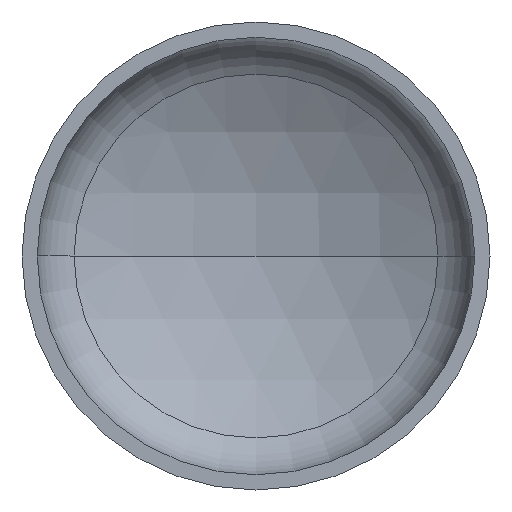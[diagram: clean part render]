
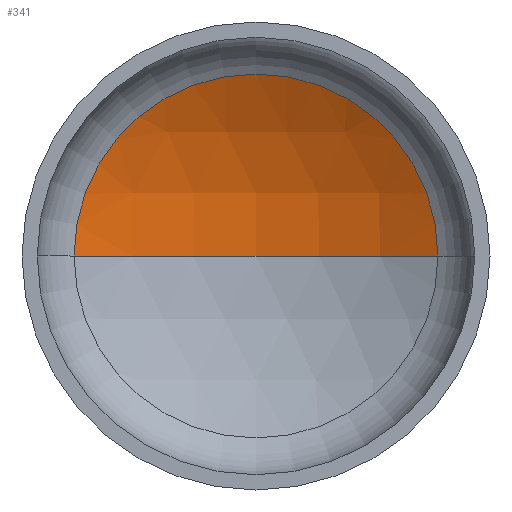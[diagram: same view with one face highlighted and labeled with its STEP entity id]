
A CAD part, front view. The second image highlights one B-rep face of the part: STEP entity #341.
In plain terms, the highlighted spherical face has radius 1280 mm.
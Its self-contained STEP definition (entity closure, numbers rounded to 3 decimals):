
#8 = AXIS2_PLACEMENT_3D ( 'NONE', #217, #271, #382 ) ;
#11 = AXIS2_PLACEMENT_3D ( 'NONE', #171, #190, #173 ) ;
#19 = EDGE_LOOP ( 'NONE', ( #95, #105, #58 ) ) ;
#20 = DIRECTION ( 'NONE',  ( 1., 0., 0. ) ) ;
#22 = DIRECTION ( 'NONE',  ( 0., -1., 0. ) ) ;
#26 = CARTESIAN_POINT ( 'NONE',  ( 0., 334.121, 0. ) ) ;
#39 = VERTEX_POINT ( 'NONE', #297 ) ;
#45 = AXIS2_PLACEMENT_3D ( 'NONE', #362, #194, #206 ) ;
#46 = AXIS2_PLACEMENT_3D ( 'NONE', #26, #22, #20 ) ;
#58 = ORIENTED_EDGE ( 'NONE', *, *, #107, .T. ) ;
#72 = VERTEX_POINT ( 'NONE', #245 ) ;
#95 = ORIENTED_EDGE ( 'NONE', *, *, #352, .F. ) ;
#105 = ORIENTED_EDGE ( 'NONE', *, *, #138, .T. ) ;
#107 = EDGE_CURVE ( 'NONE', #39, #72, #280, .T. ) ;
#138 = EDGE_CURVE ( 'NONE', #309, #39, #211, .T. ) ;
#171 = CARTESIAN_POINT ( 'NONE',  ( 0., -784.553, 0. ) ) ;
#173 = DIRECTION ( 'NONE',  ( -1., 0., 0. ) ) ;
#186 = CIRCLE ( 'NONE', #8, 1280. ) ;
#190 = DIRECTION ( 'NONE',  ( 0., 0., -1. ) ) ;
#191 = FACE_OUTER_BOUND ( 'NONE', #19, .T. ) ;
#192 = CARTESIAN_POINT ( 'NONE',  ( 0., 495.447, 0. ) ) ;
#194 = DIRECTION ( 'NONE',  ( 0., 0., -1. ) ) ;
#206 = DIRECTION ( 'NONE',  ( -1., 0., 0. ) ) ;
#211 = CIRCLE ( 'NONE', #45, 1280. ) ;
#217 = CARTESIAN_POINT ( 'NONE',  ( 0., -784.553, 0. ) ) ;
#245 = CARTESIAN_POINT ( 'NONE',  ( -622.068, 334.121, 0. ) ) ;
#271 = DIRECTION ( 'NONE',  ( 0., 0., 1. ) ) ;
#280 = CIRCLE ( 'NONE', #46, 622.068 ) ;
#297 = CARTESIAN_POINT ( 'NONE',  ( 622.068, 334.121, 0. ) ) ;
#309 = VERTEX_POINT ( 'NONE', #192 ) ;
#311 = SPHERICAL_SURFACE ( 'NONE', #11, 1280. ) ;
#341 = ADVANCED_FACE ( 'NONE', ( #191 ), #311, .F. ) ;
#352 = EDGE_CURVE ( 'NONE', #309, #72, #186, .T. ) ;
#362 = CARTESIAN_POINT ( 'NONE',  ( 0., -784.553, 0. ) ) ;
#382 = DIRECTION ( 'NONE',  ( 1., 0., 0. ) ) ;
